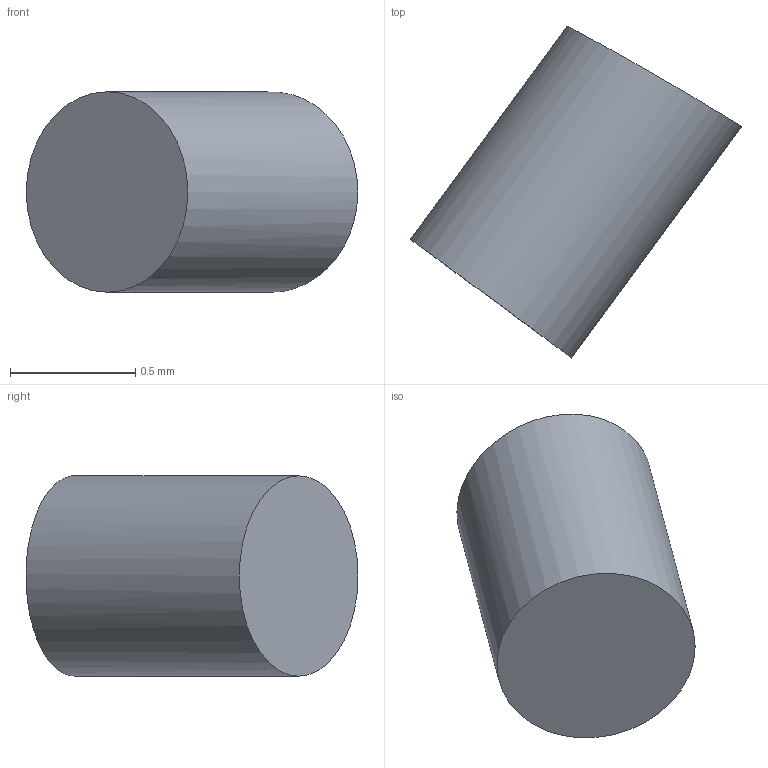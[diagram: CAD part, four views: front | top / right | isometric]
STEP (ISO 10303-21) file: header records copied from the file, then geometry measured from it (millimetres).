
FILE_DESCRIPTION(('FreeCAD Model'),'2;1');
FILE_NAME('Open CASCADE Shape Model','2026-10-23T21:15:57',('FreeCAD'),( 'FreeCAD'),'Open CASCADE STEP processor 7.8','FreeCAD','Unknown');
FILE_SCHEMA(('AUTOMOTIVE_DESIGN { 1 0 10303 214 1 1 1 1 }'));
Length unit declared in the file: millimetre
Products named in the file (1): Open CASCADE STEP translator 7.8 12
Bounding box: 1.32 x 1.32 x 0.8 mm (x, y, z)
Volume: 0.6 mm3; surface area: 3.8 mm2
Topology: 1 solids, 1 shells, 3 faces, 4 edges, 3 vertices
Faces by surface type: cylinder 1, revolution 1, plane 1
Full cylindrical faces by diameter (mm): 0.8 x1
Entity records: 161 total; most frequent: CARTESIAN_POINT 99, DIRECTION 10, ORIENTED_EDGE 8, AXIS2_PLACEMENT_3D 4, EDGE_CURVE 4, ADVANCED_FACE 3, FACE_BOUND 3, EDGE_LOOP 3
